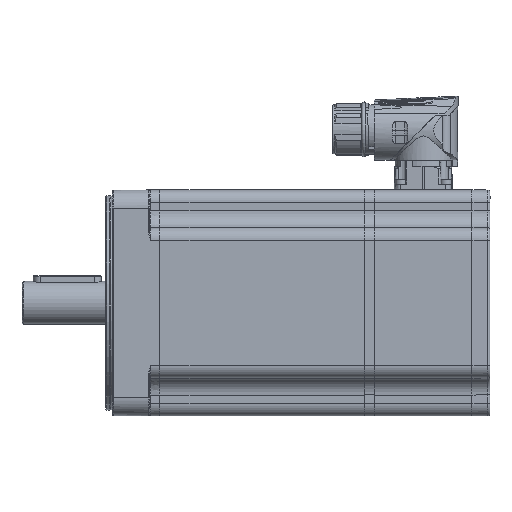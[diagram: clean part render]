
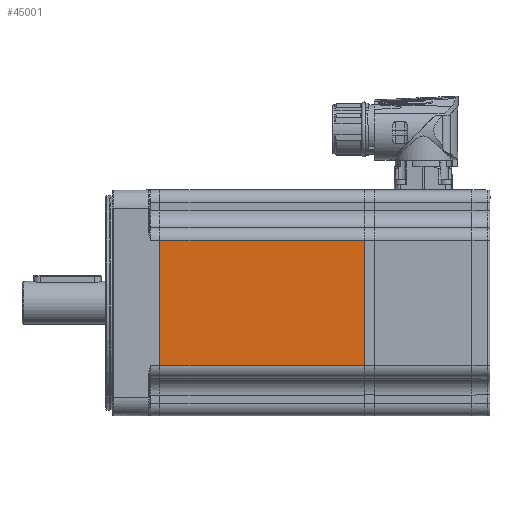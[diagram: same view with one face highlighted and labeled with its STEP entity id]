
A CAD part, left-side view. The second image highlights one B-rep face of the part: STEP entity #45001.
In plain terms, the highlighted planar face has unit normal (-1, 0, 0) as drawn and (1, 0, 0) by its records, which use the part's own axes.
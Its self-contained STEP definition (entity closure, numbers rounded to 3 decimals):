
#16002=LINE('',#61329,#18017);
#16020=LINE('',#61414,#18035);
#16027=LINE('',#61453,#18042);
#16028=LINE('',#61454,#18043);
#18017=VECTOR('',#51846,1000.);
#18035=VECTOR('',#51914,1000.);
#18042=VECTOR('',#51961,1000.);
#18043=VECTOR('',#51962,1000.);
#21370=ORIENTED_EDGE('',*,*,#29915,.T.);
#21371=ORIENTED_EDGE('',*,*,#29856,.T.);
#21372=ORIENTED_EDGE('',*,*,#29916,.T.);
#21373=ORIENTED_EDGE('',*,*,#29898,.T.);
#29856=EDGE_CURVE('',#34268,#34267,#16002,.T.);
#29898=EDGE_CURVE('',#34310,#34309,#16020,.T.);
#29915=EDGE_CURVE('',#34309,#34268,#16027,.T.);
#29916=EDGE_CURVE('',#34267,#34310,#16028,.T.);
#34267=VERTEX_POINT('',#61328);
#34268=VERTEX_POINT('',#61330);
#34309=VERTEX_POINT('',#61413);
#34310=VERTEX_POINT('',#61415);
#38913=EDGE_LOOP('',(#21370,#21371,#21372,#21373));
#41616=FACE_BOUND('',#38913,.T.);
#43885=PLANE('',#47534);
#45001=ADVANCED_FACE('',(#41616),#43885,.T.);
#47534=AXIS2_PLACEMENT_3D('',#61452,#51959,#51960);
#51846=DIRECTION('',(0.,0.,1.));
#51914=DIRECTION('',(0.,0.,-1.));
#51959=DIRECTION('',(1.,0.,0.));
#51960=DIRECTION('',(0.,0.,-1.));
#51961=DIRECTION('',(0.,1.,0.));
#51962=DIRECTION('',(0.,-1.,0.));
#61328=CARTESIAN_POINT('',(50.,91.5,27.75));
#61329=CARTESIAN_POINT('',(50.,91.5,-50.));
#61330=CARTESIAN_POINT('',(50.,91.5,-27.75));
#61413=CARTESIAN_POINT('',(50.,1.,-27.75));
#61414=CARTESIAN_POINT('',(50.,1.,-50.));
#61415=CARTESIAN_POINT('',(50.,1.,27.75));
#61452=CARTESIAN_POINT('',(50.,200.,-50.));
#61453=CARTESIAN_POINT('',(50.,200.,-27.75));
#61454=CARTESIAN_POINT('',(50.,200.,27.75));
